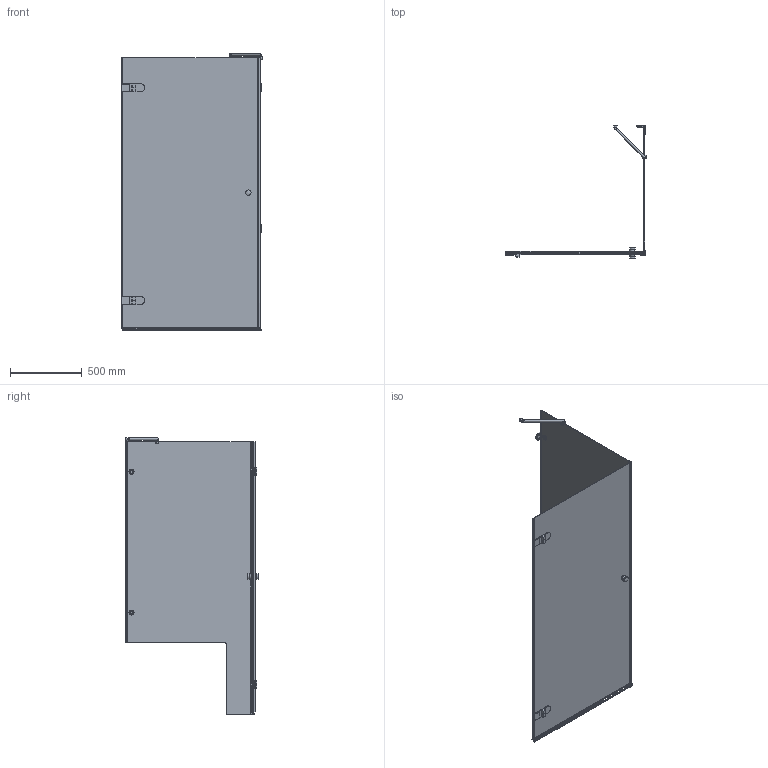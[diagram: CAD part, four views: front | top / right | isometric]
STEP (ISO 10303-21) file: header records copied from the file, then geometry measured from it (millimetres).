
FILE_DESCRIPTION(/* description */ (''),/* implementation_level */ '2;1');
FILE_NAME(/* name */ 'D:\1\LUX SQUARE GK-002V1-2511\LUX SQUARE GK-002V1-2511 левая модель\LUX SQUARE GK-002V1-2511 ЛЕВАЯ-3D.stp',/* time_stamp */ '2017-06-08T14:40:52+03:00',/* author */ ('ChechurovS'),/* organization */ (''),/* preprocessor_version */ 'ST-DEVELOPER v15.2',/* originating_system */ 'Autodesk Inventor 2014',/* authorisation */ '');
FILE_SCHEMA (('CONFIG_CONTROL_DESIGN'));
Length unit declared in the file: millimetre
Products named in the file (1): LUX SQUARE GK-002V1-2511 ЛЕВАЯ-
3D
Bounding box: 979.5 x 928 x 1931.49 mm (x, y, z)
Volume: 19729005.8 mm3; surface area: 6733699 mm2
Topology: 4 solids, 6 shells, 521 faces, 1340 edges, 854 vertices
Faces by surface type: plane 358, cylinder 133, torus 13, bspline 8, sphere 7, cone 2
Full cylindrical faces by diameter (mm): 12 x1, 15 x1, 20 x2, 26 x1, 30 x2, 35 x2, 38 x4, 40 x2
Entity records: 16703 total; most frequent: CARTESIAN_POINT 3516, ORIENTED_EDGE 2602, DIRECTION 2593, EDGE_CURVE 1301, LINE 949, VECTOR 949, VERTEX_POINT 842, AXIS2_PLACEMENT_3D 822
